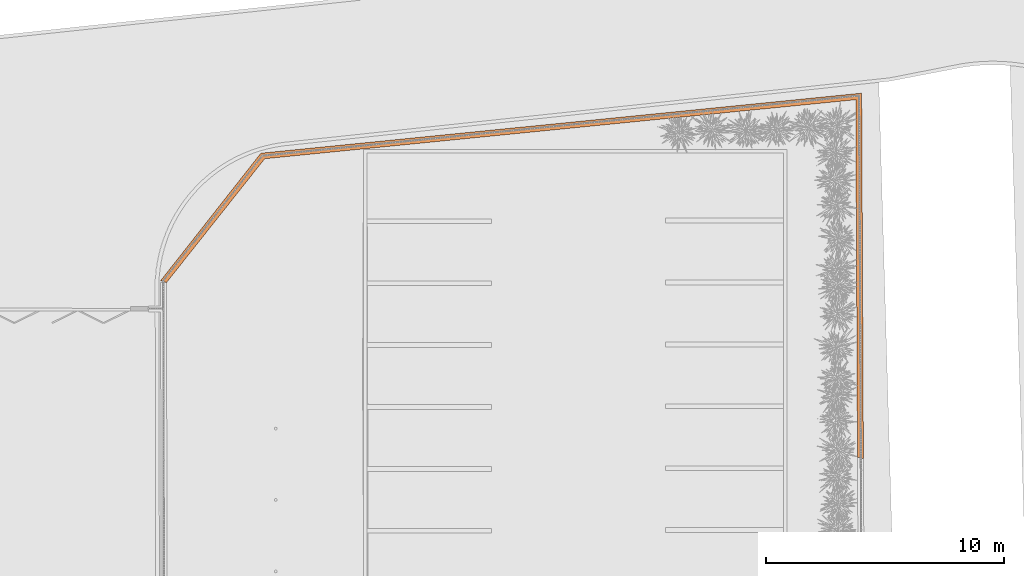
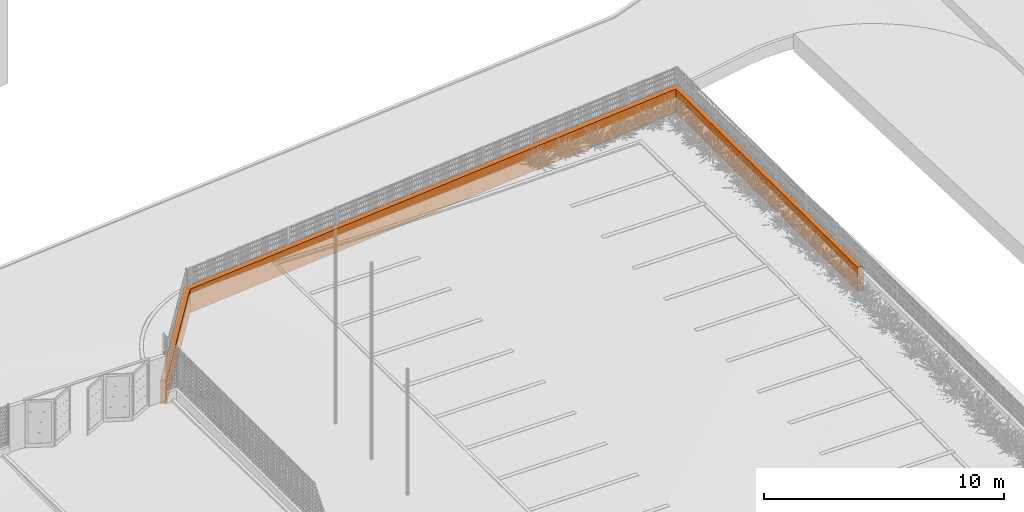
# One storey, part 49 of 1809: 1 proxy.
"""IFC2X3 building model written with IfcOpenShell, lengths in millimetres."""

from ifc_helpers import new_model, entity, si_unit, converted_unit, derived_unit, money_unit, direction, frame, origin_with_axes, place, context, subcontext, project, spatial, polyline, outline, extrude, material, type_object, element, save


model = new_model("IFC2X3")

# Units and contexts
model_context = context("Model", 3, precision=0.01, world=origin_with_axes(), true_north=direction((0.0, 1.0)))
body_context = subcontext(model_context, "Body", "Model", "MODEL_VIEW")
ifc_project = project(units=[si_unit("LENGTHUNIT", "METRE", prefix="MILLI"), si_unit("AREAUNIT", "SQUARE_METRE"), si_unit("VOLUMEUNIT", "CUBIC_METRE"), converted_unit("PLANEANGLEUNIT", "DEGREE", entity("IfcPlaneAngleMeasure", 0.0174532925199), si_unit("PLANEANGLEUNIT", "RADIAN"), dimensions=[0, 0, 0, 0, 0, 0, 0]), si_unit("SOLIDANGLEUNIT", "STERADIAN"), money_unit("EUR"), converted_unit("TIMEUNIT", "Year", entity("IfcTimeMeasure", 31556926.0), si_unit("TIMEUNIT", "SECOND"), dimensions=[0, 0, 1, 0, 0, 0, 0]), si_unit("MASSUNIT", "GRAM", prefix="KILO"), si_unit("THERMODYNAMICTEMPERATUREUNIT", "DEGREE_CELSIUS"), si_unit("LUMINOUSINTENSITYUNIT", "LUMEN"), si_unit("ENERGYUNIT", "JOULE", prefix="MEGA"), derived_unit("THERMALCONDUCTANCEUNIT", [(si_unit("POWERUNIT", "WATT"), 1), (si_unit("LENGTHUNIT", "METRE"), -1), (si_unit("THERMODYNAMICTEMPERATUREUNIT", "KELVIN"), -1)]), derived_unit("SPECIFICHEATCAPACITYUNIT", [(si_unit("ENERGYUNIT", "JOULE"), 1), (si_unit("MASSUNIT", "GRAM", prefix="KILO"), -1), (si_unit("THERMODYNAMICTEMPERATUREUNIT", "KELVIN"), -1)]), derived_unit("MASSDENSITYUNIT", [(si_unit("MASSUNIT", "GRAM", prefix="KILO"), 1), (si_unit("VOLUMEUNIT", "CUBIC_METRE"), -1)])], contexts=[model_context])

# Site, building, storey
site_placement = place(None, origin_with_axes())
site = spatial("IfcSite", under=ifc_project, at=site_placement, Name="Politse- ja Piirivalveameti ning Päästeameti ühishoone", CompositionType="ELEMENT")
building_placement = place(site_placement, origin_with_axes())
building = spatial("IfcBuilding", under=site, at=building_placement, Name="Politse- ja Piirivalveameti ning Päästeameti ühishoone", CompositionType="ELEMENT")
storey_placement = place(building_placement, origin_with_axes())
storey = spatial("IfcBuildingStorey", under=building, at=storey_placement, Name="Esimene korrus", CompositionType="ELEMENT", Elevation=0.0)

# Proxy
ifc_material = material(Name="Betoon")
building_element_proxy_type = type_object("IfcBuildingElementProxyType", Name="Betoon 1200", PredefinedType="NOTDEFINED")
proxy_placement = place(storey_placement, frame((59482.257545, 76245.5731756, 100.0), z_axis=(0.0, 0.0, 1.0), x_axis=(1.0, 0.0, 0.0)))
element("IfcBuildingElementProxy", 1, at=proxy_placement, inside=storey, type_object=building_element_proxy_type, material=ifc_material, Name="PIIRDEAED", context=body_context, shape_type="SweptSolid", body=[
    extrude(outline(polyline([(0.0, 0.0), (250.130756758, -78.9380460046), (4376.80872437, 5123.17537935), (29208.3782302, 7604.30261958), (29280.3377822, -7418.7493513), (29530.6428138, -7481.83229866), (29457.0572088, 7880.69205638), (4212.30560075, 5357.8071869), (0.0, 0.0)])), frame((0.0, 0.0, -1200.0), z_axis=(0.0, 0.0, 1.0), x_axis=(1.0, 0.0, 0.0)), (0.0, 0.0, 1.0), 1200.0),
])

save(model, "model.ifc")
